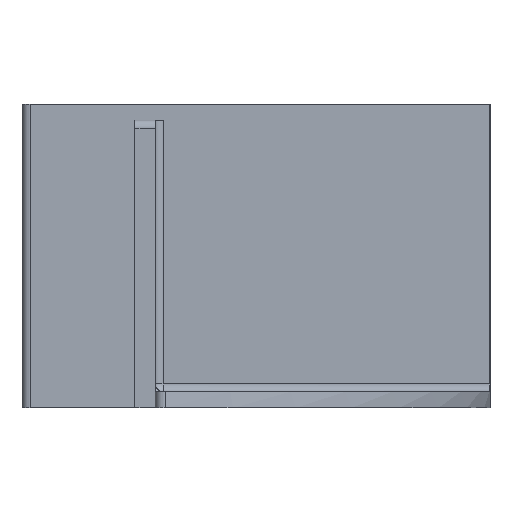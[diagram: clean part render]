
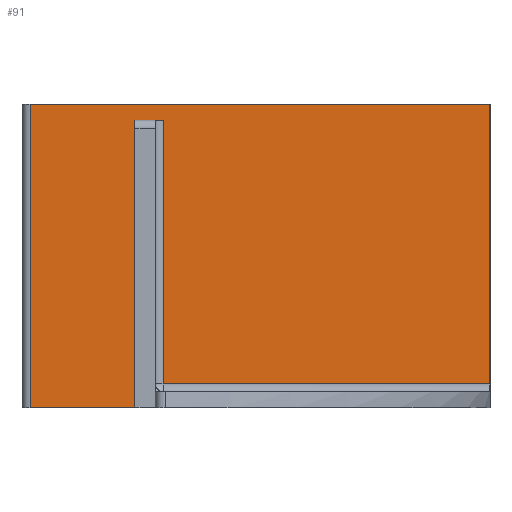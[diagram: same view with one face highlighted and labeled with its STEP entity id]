
A CAD part, left-side view. The second image highlights one B-rep face of the part: STEP entity #91.
In plain terms, the highlighted planar face has unit normal (-1, 0, 0).
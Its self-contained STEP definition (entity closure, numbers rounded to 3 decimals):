
#91=ADVANCED_FACE('',(#130),#117,.T.);
#117=PLANE('',#571);
#130=FACE_OUTER_BOUND('',#159,.T.);
#159=EDGE_LOOP('',(#240,#241,#242,#243,#244,#245,#246,#247));
#240=ORIENTED_EDGE('',*,*,#428,.T.);
#241=ORIENTED_EDGE('',*,*,#429,.T.);
#242=ORIENTED_EDGE('',*,*,#430,.T.);
#243=ORIENTED_EDGE('',*,*,#431,.F.);
#244=ORIENTED_EDGE('',*,*,#423,.T.);
#245=ORIENTED_EDGE('',*,*,#432,.T.);
#246=ORIENTED_EDGE('',*,*,#415,.T.);
#247=ORIENTED_EDGE('',*,*,#390,.T.);
#340=VERTEX_POINT('',#777);
#341=VERTEX_POINT('',#779);
#360=VERTEX_POINT('',#842);
#367=VERTEX_POINT('',#857);
#368=VERTEX_POINT('',#859);
#372=VERTEX_POINT('',#869);
#373=VERTEX_POINT('',#871);
#374=VERTEX_POINT('',#873);
#390=EDGE_CURVE('',#341,#340,#459,.T.);
#415=EDGE_CURVE('',#360,#341,#474,.T.);
#423=EDGE_CURVE('',#368,#367,#480,.T.);
#428=EDGE_CURVE('',#340,#372,#484,.T.);
#429=EDGE_CURVE('',#372,#373,#485,.T.);
#430=EDGE_CURVE('',#373,#374,#486,.T.);
#431=EDGE_CURVE('',#368,#374,#487,.T.);
#432=EDGE_CURVE('',#367,#360,#488,.T.);
#459=LINE('',#778,#506);
#474=LINE('',#841,#521);
#480=LINE('',#858,#527);
#484=LINE('',#868,#531);
#485=LINE('',#870,#532);
#486=LINE('',#872,#533);
#487=LINE('',#874,#534);
#488=LINE('',#875,#535);
#506=VECTOR('',#620,1.);
#521=VECTOR('',#661,1.);
#527=VECTOR('',#673,1.);
#531=VECTOR('',#681,1.);
#532=VECTOR('',#682,1.);
#533=VECTOR('',#683,1.);
#534=VECTOR('',#684,1.);
#535=VECTOR('',#685,1.);
#571=AXIS2_PLACEMENT_3D('',#876,#686,#687);
#620=DIRECTION('',(0.,0.,1.));
#661=DIRECTION('',(0.,-1.,0.));
#673=DIRECTION('',(0.,1.,0.));
#681=DIRECTION('',(0.,-1.,0.));
#682=DIRECTION('',(0.,0.,-1.));
#683=DIRECTION('',(0.,-1.,0.));
#684=DIRECTION('',(0.,0.,-1.));
#685=DIRECTION('',(0.,0.,-1.));
#686=DIRECTION('',(-1.,0.,0.));
#687=DIRECTION('',(0.,0.,1.));
#777=CARTESIAN_POINT('',(180.,279.7,-80.4));
#778=CARTESIAN_POINT('',(180.,279.7,-81.4));
#779=CARTESIAN_POINT('',(180.,279.7,-151.7));
#841=CARTESIAN_POINT('',(180.,302.7,-151.7));
#842=CARTESIAN_POINT('',(180.,305.7,-151.7));
#857=CARTESIAN_POINT('',(180.,305.7,-76.4));
#858=CARTESIAN_POINT('',(180.,195.7,-76.4));
#859=CARTESIAN_POINT('',(180.,191.772,-76.4));
#868=CARTESIAN_POINT('',(180.,279.7,-80.4));
#869=CARTESIAN_POINT('',(180.,272.7,-80.4));
#870=CARTESIAN_POINT('',(180.,272.7,-145.7));
#871=CARTESIAN_POINT('',(180.,272.7,-145.7));
#872=CARTESIAN_POINT('',(180.,302.7,-145.7));
#873=CARTESIAN_POINT('',(180.,191.772,-145.7));
#874=CARTESIAN_POINT('',(180.,191.772,-76.4));
#875=CARTESIAN_POINT('',(180.,305.7,-147.7));
#876=CARTESIAN_POINT('',(180.,302.7,-147.7));
